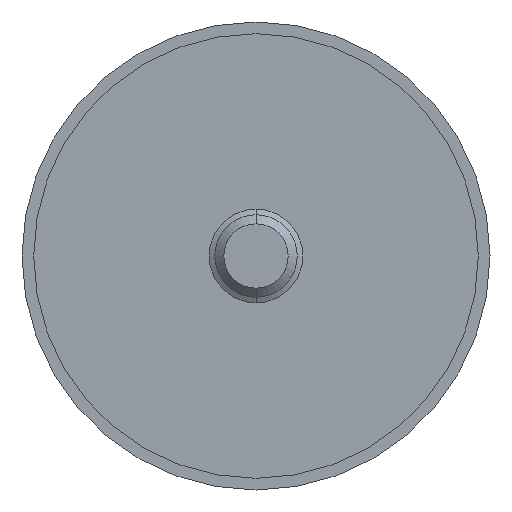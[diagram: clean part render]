
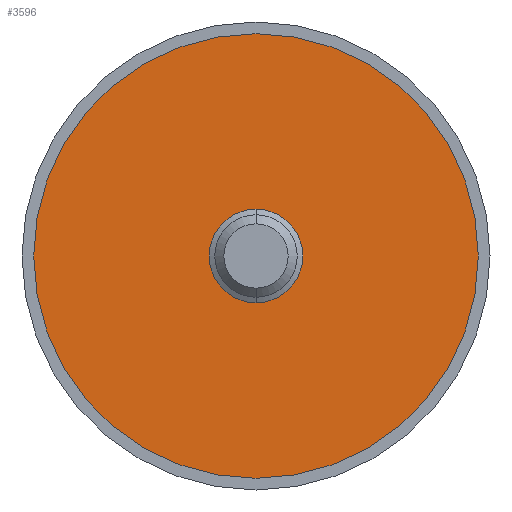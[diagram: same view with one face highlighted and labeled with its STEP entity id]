
A CAD part, front view. The second image highlights one B-rep face of the part: STEP entity #3596.
In plain terms, the highlighted planar face has unit normal (0, -1, 0).
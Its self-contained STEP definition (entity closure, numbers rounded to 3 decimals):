
#57 = DIRECTION ( 'NONE',  ( 0., 0., 1. ) ) ;
#145 = ORIENTED_EDGE ( 'NONE', *, *, #3156, .F. ) ;
#282 = VERTEX_POINT ( 'NONE', #642 ) ;
#451 = EDGE_LOOP ( 'NONE', ( #3375, #145 ) ) ;
#585 = CARTESIAN_POINT ( 'NONE',  ( 0., -1.5, 0. ) ) ;
#630 = AXIS2_PLACEMENT_3D ( 'NONE', #3258, #2859, #4322 ) ;
#642 = CARTESIAN_POINT ( 'NONE',  ( 0., -1.5, 4. ) ) ;
#1039 = VERTEX_POINT ( 'NONE', #2787 ) ;
#1130 = EDGE_CURVE ( 'NONE', #282, #1967, #3071, .T. ) ;
#1143 = CARTESIAN_POINT ( 'NONE',  ( 0., -1.5, 0. ) ) ;
#1276 = ORIENTED_EDGE ( 'NONE', *, *, #1130, .F. ) ;
#1405 = EDGE_CURVE ( 'NONE', #1039, #3857, #3269, .T. ) ;
#1530 = CARTESIAN_POINT ( 'NONE',  ( 0., -1.5, 0. ) ) ;
#1541 = DIRECTION ( 'NONE',  ( 0., -1., 0. ) ) ;
#1877 = CIRCLE ( 'NONE', #3435, 19. ) ;
#1967 = VERTEX_POINT ( 'NONE', #3998 ) ;
#2142 = DIRECTION ( 'NONE',  ( 0., 1., 0. ) ) ;
#2231 = DIRECTION ( 'NONE',  ( 0., 0., -1. ) ) ;
#2338 = DIRECTION ( 'NONE',  ( 0., 0., 1. ) ) ;
#2356 = DIRECTION ( 'NONE',  ( 0., 1., 0. ) ) ;
#2537 = PLANE ( 'NONE',  #630 ) ;
#2618 = AXIS2_PLACEMENT_3D ( 'NONE', #1143, #1541, #2231 ) ;
#2697 = AXIS2_PLACEMENT_3D ( 'NONE', #1530, #3221, #3948 ) ;
#2754 = EDGE_LOOP ( 'NONE', ( #1276, #4484 ) ) ;
#2787 = CARTESIAN_POINT ( 'NONE',  ( 0., -1.5, 19. ) ) ;
#2859 = DIRECTION ( 'NONE',  ( 0., 1., 0. ) ) ;
#3071 = CIRCLE ( 'NONE', #2697, 4. ) ;
#3156 = EDGE_CURVE ( 'NONE', #3857, #1039, #1877, .T. ) ;
#3221 = DIRECTION ( 'NONE',  ( 0., -1., 0. ) ) ;
#3258 = CARTESIAN_POINT ( 'NONE',  ( 0., -1.5, 0. ) ) ;
#3269 = CIRCLE ( 'NONE', #3573, 19. ) ;
#3375 = ORIENTED_EDGE ( 'NONE', *, *, #1405, .F. ) ;
#3432 = FACE_OUTER_BOUND ( 'NONE', #451, .T. ) ;
#3435 = AXIS2_PLACEMENT_3D ( 'NONE', #4234, #2142, #57 ) ;
#3573 = AXIS2_PLACEMENT_3D ( 'NONE', #585, #2356, #2338 ) ;
#3596 = ADVANCED_FACE ( 'NONE', ( #4266, #3432 ), #2537, .F. ) ;
#3632 = EDGE_CURVE ( 'NONE', #1967, #282, #3827, .T. ) ;
#3827 = CIRCLE ( 'NONE', #2618, 4. ) ;
#3857 = VERTEX_POINT ( 'NONE', #4442 ) ;
#3948 = DIRECTION ( 'NONE',  ( 0., 0., -1. ) ) ;
#3998 = CARTESIAN_POINT ( 'NONE',  ( 0., -1.5, -4. ) ) ;
#4234 = CARTESIAN_POINT ( 'NONE',  ( 0., -1.5, 0. ) ) ;
#4266 = FACE_BOUND ( 'NONE', #2754, .T. ) ;
#4322 = DIRECTION ( 'NONE',  ( 0., 0., 1. ) ) ;
#4442 = CARTESIAN_POINT ( 'NONE',  ( 0., -1.5, -19. ) ) ;
#4484 = ORIENTED_EDGE ( 'NONE', *, *, #3632, .F. ) ;
